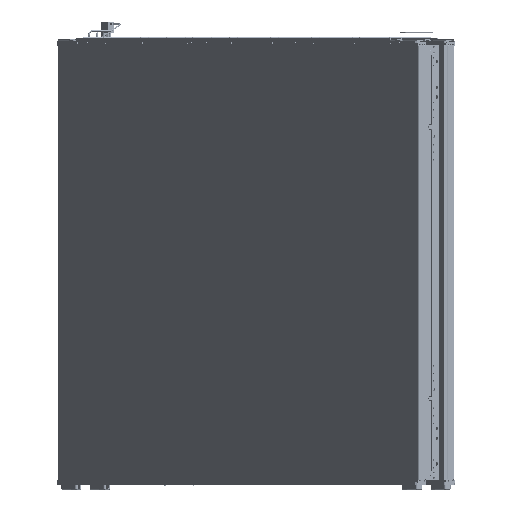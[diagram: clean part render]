
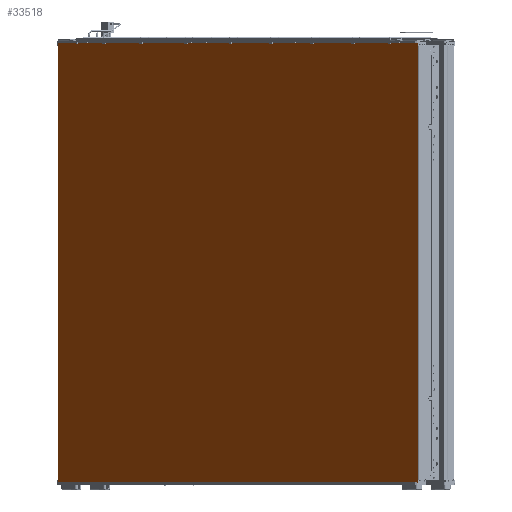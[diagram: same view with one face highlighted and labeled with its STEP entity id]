
A CAD part, left-side view. The second image highlights one B-rep face of the part: STEP entity #33518.
In plain terms, the highlighted planar face has unit normal (-0.5, 0.866, 0) as drawn and (0, 1, 0) by its records, which use the part's own axes.
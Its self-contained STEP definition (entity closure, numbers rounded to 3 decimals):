
#33518=ADVANCED_FACE('P26',(#49891),#44576,.T.);
#44576=PLANE('',#211683);
#49891=FACE_OUTER_BOUND('',#57605,.T.);
#57605=EDGE_LOOP('',(#74578,#74579,#74580,#74581));
#74578=ORIENTED_EDGE('',*,*,#149786,.T.);
#74579=ORIENTED_EDGE('',*,*,#149781,.T.);
#74580=ORIENTED_EDGE('',*,*,#149788,.F.);
#74581=ORIENTED_EDGE('',*,*,#149789,.T.);
#129852=VERTEX_POINT('',#290112);
#129853=VERTEX_POINT('',#290114);
#129856=VERTEX_POINT('',#290124);
#129857=VERTEX_POINT('',#290128);
#149781=EDGE_CURVE('',#129853,#129852,#177423,.T.);
#149786=EDGE_CURVE('',#129856,#129853,#177428,.T.);
#149788=EDGE_CURVE('',#129857,#129852,#177430,.T.);
#149789=EDGE_CURVE('',#129857,#129856,#177431,.T.);
#177423=LINE('',#290113,#194552);
#177428=LINE('',#290123,#194557);
#177430=LINE('',#290127,#194559);
#177431=LINE('',#290129,#194560);
#194552=VECTOR('',#232116,1.);
#194557=VECTOR('',#232125,1.);
#194559=VECTOR('',#232129,1.);
#194560=VECTOR('',#232130,1.);
#211683=AXIS2_PLACEMENT_3D('',#290130,#232131,#232132);
#232116=DIRECTION('',(1.,0.,0.));
#232125=DIRECTION('',(0.,0.,1.));
#232129=DIRECTION('',(0.,0.,1.));
#232130=DIRECTION('',(-1.,0.,0.));
#232131=DIRECTION('',(0.,1.,0.));
#232132=DIRECTION('',(0.,0.,1.));
#290112=CARTESIAN_POINT('',(4074.,1.5,2487.));
#290113=CARTESIAN_POINT('',(2037.,1.5,2487.));
#290114=CARTESIAN_POINT('',(0.,1.5,2487.));
#290123=CARTESIAN_POINT('',(0.,1.5,0.));
#290124=CARTESIAN_POINT('',(0.,1.5,0.));
#290127=CARTESIAN_POINT('',(4074.,1.5,0.));
#290128=CARTESIAN_POINT('',(4074.,1.5,0.));
#290129=CARTESIAN_POINT('',(2037.,1.5,0.));
#290130=CARTESIAN_POINT('',(2037.,1.5,0.));
